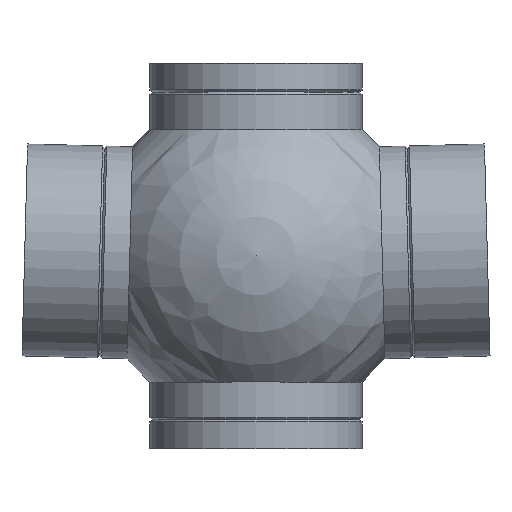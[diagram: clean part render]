
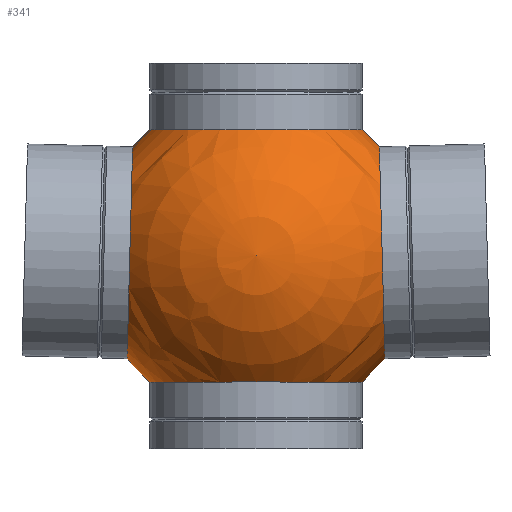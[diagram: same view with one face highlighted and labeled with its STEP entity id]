
A CAD part, top view. The second image highlights one B-rep face of the part: STEP entity #341.
In plain terms, the highlighted spherical face has radius 85.5 mm.
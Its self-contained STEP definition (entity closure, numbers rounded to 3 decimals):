
#13=SPHERICAL_SURFACE($,#398,85.5);
#60=FACE_BOUND($,#136,.T.);
#61=FACE_BOUND($,#137,.T.);
#62=FACE_BOUND($,#138,.T.);
#63=FACE_BOUND($,#139,.T.);
#136=EDGE_LOOP($,(#276));
#137=EDGE_LOOP($,(#277));
#138=EDGE_LOOP($,(#278));
#139=EDGE_LOOP($,(#279));
#147=CIRCLE($,#355,55.);
#152=CIRCLE($,#365,55.);
#164=CIRCLE($,#387,55.);
#169=CIRCLE($,#397,55.);
#175=VERTEX_POINT($,#525);
#180=VERTEX_POINT($,#540);
#192=VERTEX_POINT($,#574);
#197=VERTEX_POINT($,#589);
#203=EDGE_CURVE($,#175,#175,#147,.T.);
#208=EDGE_CURVE($,#180,#180,#152,.T.);
#220=EDGE_CURVE($,#192,#192,#164,.T.);
#225=EDGE_CURVE($,#197,#197,#169,.T.);
#276=ORIENTED_EDGE($,*,*,#203,.T.);
#277=ORIENTED_EDGE($,*,*,#208,.T.);
#278=ORIENTED_EDGE($,*,*,#220,.T.);
#279=ORIENTED_EDGE($,*,*,#225,.T.);
#341=ADVANCED_FACE($,(#60,#61,#62,#63),#13,.T.);
#355=AXIS2_PLACEMENT_3D($,#526,#420,#421);
#365=AXIS2_PLACEMENT_3D($,#541,#440,#441);
#387=AXIS2_PLACEMENT_3D($,#575,#484,#485);
#397=AXIS2_PLACEMENT_3D($,#590,#504,#505);
#398=AXIS2_PLACEMENT_3D($,#591,#506,#507);
#420=DIRECTION('center_axis',(-1.,-0.026,0.));
#421=DIRECTION('ref_axis',(0.,0.,
1.));
#440=DIRECTION('center_axis',(1.,-0.026,0.));
#441=DIRECTION('ref_axis',(0.,0.,
-1.));
#484=DIRECTION('center_axis',(0.,1.,0.));
#485=DIRECTION('ref_axis',(1.,0.,0.));
#504=DIRECTION('center_axis',(0.,-1.,0.));
#505=DIRECTION('ref_axis',(1.,0.,0.));
#506=DIRECTION('center_axis',(0.,0.,1.));
#507=DIRECTION('ref_axis',(1.,0.,0.));
#525=CARTESIAN_POINT('',(65.439,1.714,-55.));
#526=CARTESIAN_POINT('Origin',(65.439,1.714,0.));
#540=CARTESIAN_POINT('',(-65.439,1.714,55.));
#541=CARTESIAN_POINT('Origin',(-65.439,1.714,0.));
#574=CARTESIAN_POINT('',(-55.,-65.462,0.));
#575=CARTESIAN_POINT('Origin',(0.,-65.462,0.));
#589=CARTESIAN_POINT('',(-55.,65.462,0.));
#590=CARTESIAN_POINT('Origin',(0.,65.462,0.));
#591=CARTESIAN_POINT('Origin',(0.,0.,0.));
